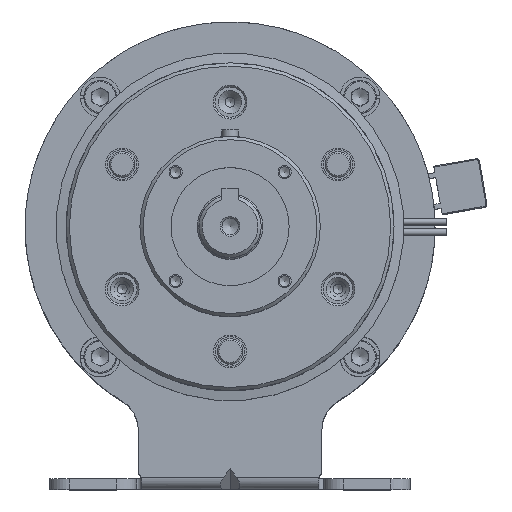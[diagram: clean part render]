
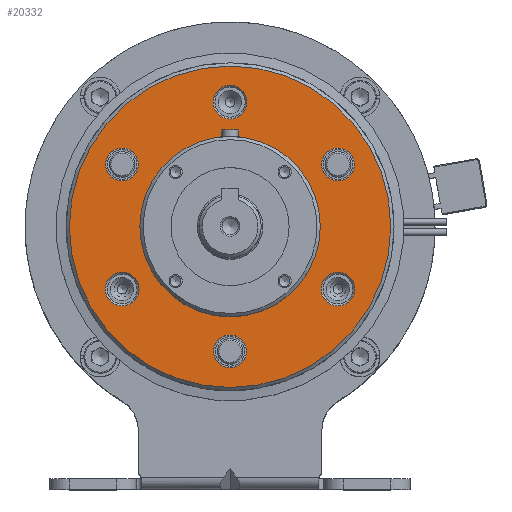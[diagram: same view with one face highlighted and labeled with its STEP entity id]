
A CAD part, top view. The second image highlights one B-rep face of the part: STEP entity #20332.
In plain terms, the highlighted planar face has unit normal (0, 0, 1).
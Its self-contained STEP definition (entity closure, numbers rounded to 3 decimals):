
#546 = DIRECTION ( 'NONE',  ( -0.866, -0.5, 0. ) ) ;
#1761 = EDGE_CURVE ( 'NONE', #24570, #24570, #10755, .T. ) ;
#1913 = DIRECTION ( 'NONE',  ( 0., 1., 0. ) ) ;
#1921 = EDGE_LOOP ( 'NONE', ( #16198 ) ) ;
#2315 = ORIENTED_EDGE ( 'NONE', *, *, #9100, .F. ) ;
#2405 = VERTEX_POINT ( 'NONE', #19014 ) ;
#2548 = DIRECTION ( 'NONE',  ( 0., 1., 0. ) ) ;
#3134 = CARTESIAN_POINT ( 'NONE',  ( 0., 0., 80.9 ) ) ;
#3304 = CIRCLE ( 'NONE', #25607, 5.15 ) ;
#3365 = VERTEX_POINT ( 'NONE', #9262 ) ;
#3419 = AXIS2_PLACEMENT_3D ( 'NONE', #17173, #12902, #546 ) ;
#3749 = EDGE_LOOP ( 'NONE', ( #23898 ) ) ;
#3958 = DIRECTION ( 'NONE',  ( 0., 0., -1. ) ) ;
#3998 = CARTESIAN_POINT ( 'NONE',  ( 32.909, -13.85, 80.9 ) ) ;
#4041 = AXIS2_PLACEMENT_3D ( 'NONE', #17282, #13264, #25440 ) ;
#4660 = FACE_BOUND ( 'NONE', #15504, .T. ) ;
#4946 = CIRCLE ( 'NONE', #6071, 5.15 ) ;
#5073 = CIRCLE ( 'NONE', #21279, 5.15 ) ;
#5339 = DIRECTION ( 'NONE',  ( 0., 0., 1. ) ) ;
#5514 = CARTESIAN_POINT ( 'NONE',  ( 37.239, 16.5, 80.9 ) ) ;
#5707 = ORIENTED_EDGE ( 'NONE', *, *, #1761, .F. ) ;
#5796 = CARTESIAN_POINT ( 'NONE',  ( 0., 0., 80.9 ) ) ;
#6071 = AXIS2_PLACEMENT_3D ( 'NONE', #7968, #3958, #22481 ) ;
#6331 = AXIS2_PLACEMENT_3D ( 'NONE', #5796, #10181, #16432 ) ;
#6344 = EDGE_LOOP ( 'NONE', ( #8206 ) ) ;
#7103 = DIRECTION ( 'NONE',  ( 0., 0., -1. ) ) ;
#7968 = CARTESIAN_POINT ( 'NONE',  ( 32.909, -19., 80.9 ) ) ;
#8206 = ORIENTED_EDGE ( 'NONE', *, *, #19984, .F. ) ;
#8256 = CARTESIAN_POINT ( 'NONE',  ( 0., 0., 80.9 ) ) ;
#8269 = CIRCLE ( 'NONE', #4041, 5. ) ;
#8730 = DIRECTION ( 'NONE',  ( 0., 0., 1. ) ) ;
#9100 = EDGE_CURVE ( 'NONE', #12693, #12693, #8269, .T. ) ;
#9262 = CARTESIAN_POINT ( 'NONE',  ( 0., 43.15, 80.9 ) ) ;
#9463 = FACE_BOUND ( 'NONE', #22176, .T. ) ;
#10127 = VERTEX_POINT ( 'NONE', #14463 ) ;
#10181 = DIRECTION ( 'NONE',  ( 0., 0., 1. ) ) ;
#10405 = VERTEX_POINT ( 'NONE', #3998 ) ;
#10509 = AXIS2_PLACEMENT_3D ( 'NONE', #3134, #5339, #25708 ) ;
#10755 = CIRCLE ( 'NONE', #20249, 5. ) ;
#11134 = CARTESIAN_POINT ( 'NONE',  ( 0., 38., 80.9 ) ) ;
#11674 = EDGE_LOOP ( 'NONE', ( #2315 ) ) ;
#11694 = EDGE_LOOP ( 'NONE', ( #16832 ) ) ;
#11901 = PLANE ( 'NONE',  #6331 ) ;
#12311 = CARTESIAN_POINT ( 'NONE',  ( -32.909, -13.85, 80.9 ) ) ;
#12446 = EDGE_CURVE ( 'NONE', #20994, #20994, #15769, .T. ) ;
#12693 = VERTEX_POINT ( 'NONE', #5514 ) ;
#12902 = DIRECTION ( 'NONE',  ( 0., 0., 1. ) ) ;
#12961 = EDGE_CURVE ( 'NONE', #19722, #19722, #5073, .T. ) ;
#13264 = DIRECTION ( 'NONE',  ( 0., 0., 1. ) ) ;
#13669 = CARTESIAN_POINT ( 'NONE',  ( -32.909, 24., 80.9 ) ) ;
#13875 = EDGE_CURVE ( 'NONE', #10127, #10127, #17092, .T. ) ;
#14015 = CARTESIAN_POINT ( 'NONE',  ( -32.909, -19., 80.9 ) ) ;
#14463 = CARTESIAN_POINT ( 'NONE',  ( 0., 49., 80.9 ) ) ;
#14949 = CIRCLE ( 'NONE', #3419, 5. ) ;
#15224 = EDGE_CURVE ( 'NONE', #10405, #10405, #4946, .T. ) ;
#15342 = DIRECTION ( 'NONE',  ( 0., 1., 0. ) ) ;
#15504 = EDGE_LOOP ( 'NONE', ( #23308 ) ) ;
#15769 = CIRCLE ( 'NONE', #19047, 27.5 ) ;
#16193 = FACE_OUTER_BOUND ( 'NONE', #11694, .T. ) ;
#16198 = ORIENTED_EDGE ( 'NONE', *, *, #22889, .T. ) ;
#16432 = DIRECTION ( 'NONE',  ( 0., 1., 0. ) ) ;
#16832 = ORIENTED_EDGE ( 'NONE', *, *, #13875, .T. ) ;
#17092 = CIRCLE ( 'NONE', #10509, 49. ) ;
#17173 = CARTESIAN_POINT ( 'NONE',  ( 0., -38., 80.9 ) ) ;
#17282 = CARTESIAN_POINT ( 'NONE',  ( 32.909, 19., 80.9 ) ) ;
#18455 = DIRECTION ( 'NONE',  ( 0., 0., -1. ) ) ;
#19010 = CARTESIAN_POINT ( 'NONE',  ( -32.909, 19., 80.9 ) ) ;
#19014 = CARTESIAN_POINT ( 'NONE',  ( -4.33, -40.5, 80.9 ) ) ;
#19047 = AXIS2_PLACEMENT_3D ( 'NONE', #8256, #18455, #1913 ) ;
#19710 = FACE_BOUND ( 'NONE', #24264, .T. ) ;
#19722 = VERTEX_POINT ( 'NONE', #12311 ) ;
#19984 = EDGE_CURVE ( 'NONE', #2405, #2405, #14949, .T. ) ;
#20249 = AXIS2_PLACEMENT_3D ( 'NONE', #19010, #8730, #2548 ) ;
#20332 = ADVANCED_FACE ( 'NONE', ( #16193, #20337, #25829, #19710, #26497, #20983, #9463, #4660 ), #11901, .T. ) ;
#20337 = FACE_BOUND ( 'NONE', #3749, .T. ) ;
#20983 = FACE_BOUND ( 'NONE', #6344, .T. ) ;
#20994 = VERTEX_POINT ( 'NONE', #26503 ) ;
#21279 = AXIS2_PLACEMENT_3D ( 'NONE', #14015, #22327, #26490 ) ;
#22176 = EDGE_LOOP ( 'NONE', ( #5707 ) ) ;
#22327 = DIRECTION ( 'NONE',  ( 0., 0., -1. ) ) ;
#22481 = DIRECTION ( 'NONE',  ( 0., 1., 0. ) ) ;
#22889 = EDGE_CURVE ( 'NONE', #3365, #3365, #3304, .T. ) ;
#23308 = ORIENTED_EDGE ( 'NONE', *, *, #12446, .T. ) ;
#23898 = ORIENTED_EDGE ( 'NONE', *, *, #12961, .T. ) ;
#24264 = EDGE_LOOP ( 'NONE', ( #25943 ) ) ;
#24570 = VERTEX_POINT ( 'NONE', #13669 ) ;
#25440 = DIRECTION ( 'NONE',  ( 0.866, -0.5, 0. ) ) ;
#25607 = AXIS2_PLACEMENT_3D ( 'NONE', #11134, #7103, #15342 ) ;
#25708 = DIRECTION ( 'NONE',  ( 0., 1., 0. ) ) ;
#25829 = FACE_BOUND ( 'NONE', #1921, .T. ) ;
#25943 = ORIENTED_EDGE ( 'NONE', *, *, #15224, .T. ) ;
#26490 = DIRECTION ( 'NONE',  ( 0., 1., 0. ) ) ;
#26497 = FACE_BOUND ( 'NONE', #11674, .T. ) ;
#26503 = CARTESIAN_POINT ( 'NONE',  ( 0., 27.5, 80.9 ) ) ;
